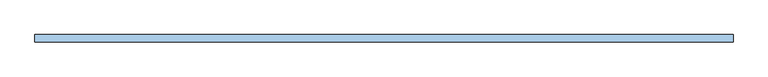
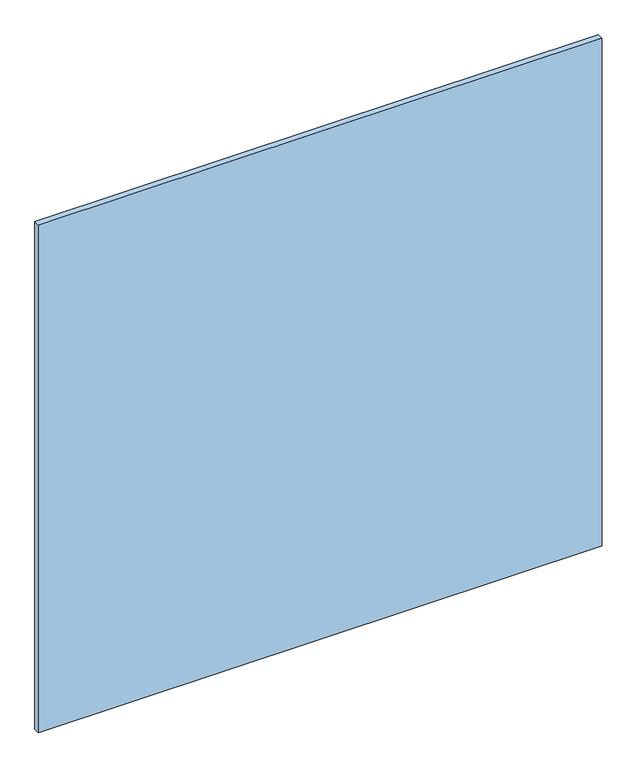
"""IFC4 building model written with IfcOpenShell, lengths in millimetres: window geometry, espejo biselado sin marco : ESP-2  espejo biselado 130 x 101."""

from ifc_helpers import new_model, si_unit, origin, origin_with_axes, place, context, project, spatial, polyline, outline, extrude, source, transform, mapped, element, save


def window_574a595c(model_context):
    return source(origin(), model_context, "Body", "SweptSolid", [
        extrude(outline(polyline([(-525.0, -79.0), (525.0, -79.0), (525.0, -90.0), (-525.0, -90.0), (-525.0, -79.0)])), origin_with_axes(), (0.0, 0.0, 1.0), 1000.0),
    ])


if __name__ == "__main__":
    model = new_model("IFC4")
    model_context = context("Model", 3, world=origin())
    ifc_project = project(units=[si_unit("LENGTHUNIT", "METRE", prefix="MILLI")], contexts=[model_context])
    site = spatial("IfcSite", under=ifc_project)
    building = spatial("IfcBuilding", under=site)
    placement = place(None, origin())
    window_shape = window_574a595c(model_context)
    element("IfcWindow", 1, ObjectType="espejo biselado sin marco : ESP-2  espejo biselado 130 x 101", at=placement, inside=building, context=model_context, shape_type="MappedRepresentation", body=[
        mapped(window_shape, transform((0.0, 0.0, 0.0), x_axis=(1.0, 0.0, 0.0), y_axis=(0.0, 1.0, 0.0), z_axis=(0.0, 0.0, 1.0))),
    ])
    save(model, "model.ifc")
